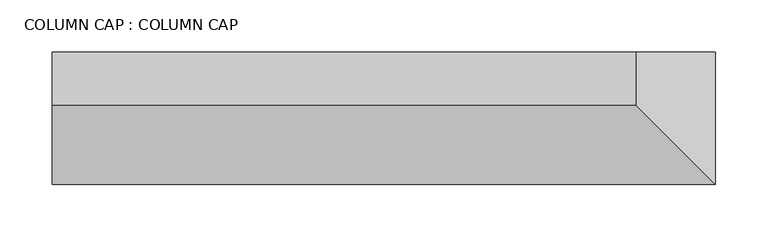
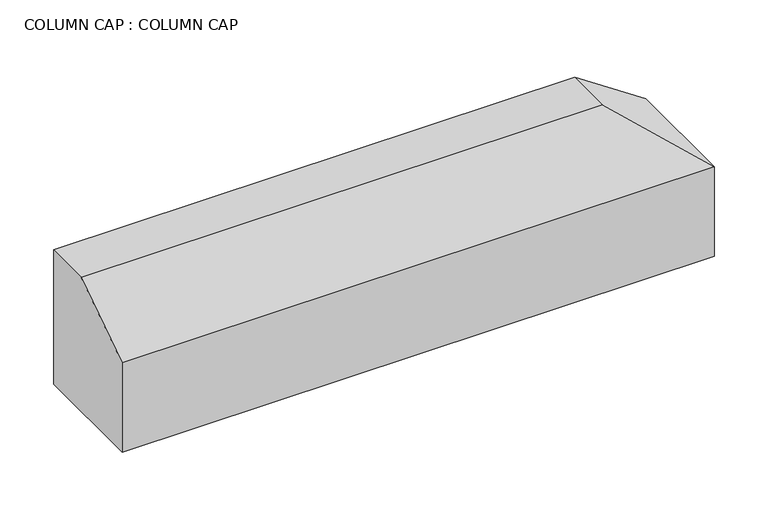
"""IFC4 building model written with IfcOpenShell, lengths in millimetres: proxy geometry, COLUMN CAP : COLUMN CAP."""

from ifc_helpers import new_model, si_unit, origin, place, context, project, spatial, faceted_brep, source, transform, mapped, element, save


def column_cap_column_cap_363ad37e(model_context):
    return source(origin(), model_context, "Body", "Brep", [
        faceted_brep([(269.764747, -5648.1989595, 35153.6), (269.764747, -5775.1989595, 35153.6), (-365.235253, -5775.1989595, 35153.6), (-365.235253, -5648.1989595, 35153.6), (-365.235253, -5648.1989595, 35306.0), (193.564747, -5648.1989595, 35306.0), (269.764747, -5648.1989595, 35255.2), (-365.235253, -5775.1989595, 35255.2), (-365.235253, -5698.9989595, 35306.0), (269.764747, -5775.1989595, 35255.2), (193.564747, -5698.9989595, 35306.0)], [[[0, 1, 2, 3]], [[0, 3, 4, 5, 6]], [[4, 3, 2, 7, 8]], [[2, 1, 9, 7]], [[1, 0, 6, 9]], [[10, 5, 4, 8]], [[5, 10, 9, 6]], [[10, 8, 7, 9]]]),
    ])


if __name__ == "__main__":
    model = new_model("IFC4")
    model_context = context("Model", 3, world=origin())
    ifc_project = project(units=[si_unit("LENGTHUNIT", "METRE", prefix="MILLI")], contexts=[model_context])
    site = spatial("IfcSite", under=ifc_project)
    building = spatial("IfcBuilding", under=site)
    placement = place(None, origin())
    column_cap_column_cap_shape = column_cap_column_cap_363ad37e(model_context)
    element("IfcBuildingElementProxy", 1, Name="COLUMN CAP : COLUMN CAP", ObjectType="COLUMN CAP : COLUMN CAP", at=placement, inside=building, context=model_context, shape_type="MappedRepresentation", body=[
        mapped(column_cap_column_cap_shape, transform((0.0, 0.0, 0.0), x_axis=(1.0, 0.0, 0.0), y_axis=(0.0, 1.0, 0.0), z_axis=(0.0, 0.0, 1.0))),
    ])
    save(model, "model.ifc")
